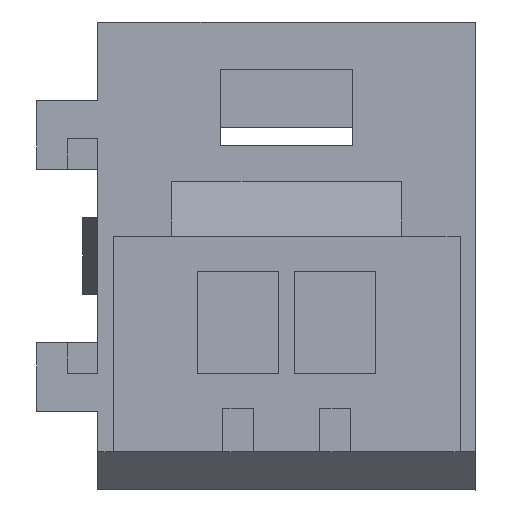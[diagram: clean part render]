
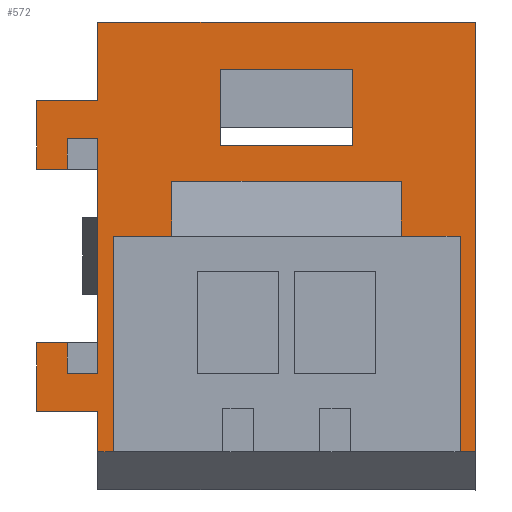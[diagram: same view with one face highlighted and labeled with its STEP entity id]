
A CAD part, front view. The second image highlights one B-rep face of the part: STEP entity #572.
In plain terms, the highlighted planar face has unit normal (0, -1, 0).
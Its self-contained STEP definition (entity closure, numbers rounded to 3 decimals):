
#376=AXIS2_PLACEMENT_3D('Plane Axis2P3D',#373,#374,#375) ;
#186=CARTESIAN_POINT('Vertex',(-7.4,-1.8,7.925)) ;
#189=CARTESIAN_POINT('Line Origine',(-7.4,-1.8,9.463)) ;
#193=CARTESIAN_POINT('Vertex',(-7.4,-1.8,11.)) ;
#221=CARTESIAN_POINT('Vertex',(-7.4,-1.8,-5.85)) ;
#224=CARTESIAN_POINT('Line Origine',(-7.4,-1.8,-5.062)) ;
#228=CARTESIAN_POINT('Vertex',(-7.4,-1.8,-4.275)) ;
#263=CARTESIAN_POINT('Vertex',(-7.4,-1.8,-2.775)) ;
#266=CARTESIAN_POINT('Line Origine',(-7.4,-1.8,1.825)) ;
#270=CARTESIAN_POINT('Vertex',(-7.4,-1.8,6.425)) ;
#358=CARTESIAN_POINT('Vertex',(-9.8,-1.8,7.925)) ;
#361=CARTESIAN_POINT('Line Origine',(-8.6,-1.8,7.925)) ;
#373=CARTESIAN_POINT('Axis2P3D Location',(-10.66,-1.8,-6.693)) ;
#378=CARTESIAN_POINT('Line Origine',(-9.2,-1.8,-1.575)) ;
#382=CARTESIAN_POINT('Vertex',(-8.6,-1.8,-1.575)) ;
#384=CARTESIAN_POINT('Vertex',(-9.8,-1.8,-1.575)) ;
#387=CARTESIAN_POINT('Line Origine',(-9.8,-1.8,-2.925)) ;
#391=CARTESIAN_POINT('Vertex',(-9.8,-1.8,-4.275)) ;
#394=CARTESIAN_POINT('Line Origine',(-8.6,-1.8,-4.275)) ;
#399=CARTESIAN_POINT('Line Origine',(-7.1,-1.8,-5.85)) ;
#403=CARTESIAN_POINT('Vertex',(-6.8,-1.8,-5.85)) ;
#406=CARTESIAN_POINT('Line Origine',(-6.8,-1.8,-1.625)) ;
#410=CARTESIAN_POINT('Vertex',(-6.8,-1.8,2.6)) ;
#413=CARTESIAN_POINT('Line Origine',(-5.65,-1.8,2.6)) ;
#417=CARTESIAN_POINT('Vertex',(-4.5,-1.8,2.6)) ;
#420=CARTESIAN_POINT('Line Origine',(-4.5,-1.8,3.675)) ;
#424=CARTESIAN_POINT('Vertex',(-4.5,-1.8,4.75)) ;
#427=CARTESIAN_POINT('Line Origine',(0.,-1.8,4.75)) ;
#431=CARTESIAN_POINT('Vertex',(4.5,-1.8,4.75)) ;
#434=CARTESIAN_POINT('Line Origine',(4.5,-1.8,3.675)) ;
#438=CARTESIAN_POINT('Vertex',(4.5,-1.8,2.6)) ;
#441=CARTESIAN_POINT('Line Origine',(5.65,-1.8,2.6)) ;
#445=CARTESIAN_POINT('Vertex',(6.8,-1.8,2.6)) ;
#448=CARTESIAN_POINT('Line Origine',(6.8,-1.8,-1.625)) ;
#452=CARTESIAN_POINT('Vertex',(6.8,-1.8,-5.85)) ;
#455=CARTESIAN_POINT('Line Origine',(7.1,-1.8,-5.85)) ;
#459=CARTESIAN_POINT('Vertex',(7.4,-1.8,-5.85)) ;
#462=CARTESIAN_POINT('Line Origine',(7.4,-1.8,2.575)) ;
#466=CARTESIAN_POINT('Vertex',(7.4,-1.8,11.)) ;
#469=CARTESIAN_POINT('Line Origine',(0.,-1.8,11.)) ;
#474=CARTESIAN_POINT('Line Origine',(-9.8,-1.8,6.575)) ;
#478=CARTESIAN_POINT('Vertex',(-9.8,-1.8,5.225)) ;
#481=CARTESIAN_POINT('Line Origine',(-9.2,-1.8,5.225)) ;
#485=CARTESIAN_POINT('Vertex',(-8.6,-1.8,5.225)) ;
#488=CARTESIAN_POINT('Line Origine',(-8.6,-1.8,5.825)) ;
#492=CARTESIAN_POINT('Vertex',(-8.6,-1.8,6.425)) ;
#495=CARTESIAN_POINT('Line Origine',(-8.,-1.8,6.425)) ;
#500=CARTESIAN_POINT('Line Origine',(-8.,-1.8,-2.775)) ;
#504=CARTESIAN_POINT('Vertex',(-8.6,-1.8,-2.775)) ;
#507=CARTESIAN_POINT('Line Origine',(-8.6,-1.8,-2.175)) ;
#538=CARTESIAN_POINT('Line Origine',(0.,-1.8,9.15)) ;
#542=CARTESIAN_POINT('Vertex',(-2.6,-1.8,9.15)) ;
#544=CARTESIAN_POINT('Vertex',(2.6,-1.8,9.15)) ;
#547=CARTESIAN_POINT('Line Origine',(2.6,-1.8,7.65)) ;
#551=CARTESIAN_POINT('Vertex',(2.6,-1.8,6.15)) ;
#554=CARTESIAN_POINT('Line Origine',(0.,-1.8,6.15)) ;
#558=CARTESIAN_POINT('Vertex',(-2.6,-1.8,6.15)) ;
#561=CARTESIAN_POINT('Line Origine',(-2.6,-1.8,7.65)) ;
#190=DIRECTION('Vector Direction',(0.,0.,-1.)) ;
#225=DIRECTION('Vector Direction',(0.,0.,-1.)) ;
#267=DIRECTION('Vector Direction',(0.,0.,-1.)) ;
#362=DIRECTION('Vector Direction',(-1.,0.,0.)) ;
#374=DIRECTION('Axis2P3D Direction',(0.,-1.,0.)) ;
#375=DIRECTION('Axis2P3D XDirection',(1.,0.,0.)) ;
#379=DIRECTION('Vector Direction',(-1.,0.,0.)) ;
#388=DIRECTION('Vector Direction',(0.,0.,-1.)) ;
#395=DIRECTION('Vector Direction',(1.,0.,0.)) ;
#400=DIRECTION('Vector Direction',(1.,0.,0.)) ;
#407=DIRECTION('Vector Direction',(0.,0.,1.)) ;
#414=DIRECTION('Vector Direction',(1.,0.,0.)) ;
#421=DIRECTION('Vector Direction',(0.,0.,1.)) ;
#428=DIRECTION('Vector Direction',(1.,0.,0.)) ;
#435=DIRECTION('Vector Direction',(0.,0.,-1.)) ;
#442=DIRECTION('Vector Direction',(1.,0.,0.)) ;
#449=DIRECTION('Vector Direction',(0.,0.,-1.)) ;
#456=DIRECTION('Vector Direction',(1.,0.,0.)) ;
#463=DIRECTION('Vector Direction',(0.,0.,1.)) ;
#470=DIRECTION('Vector Direction',(-1.,0.,0.)) ;
#475=DIRECTION('Vector Direction',(0.,0.,-1.)) ;
#482=DIRECTION('Vector Direction',(1.,0.,0.)) ;
#489=DIRECTION('Vector Direction',(0.,0.,1.)) ;
#496=DIRECTION('Vector Direction',(1.,0.,0.)) ;
#501=DIRECTION('Vector Direction',(-1.,0.,0.)) ;
#508=DIRECTION('Vector Direction',(0.,0.,1.)) ;
#539=DIRECTION('Vector Direction',(1.,0.,0.)) ;
#548=DIRECTION('Vector Direction',(0.,0.,-1.)) ;
#555=DIRECTION('Vector Direction',(-1.,0.,0.)) ;
#562=DIRECTION('Vector Direction',(0.,0.,1.)) ;
#191=VECTOR('Line Direction',#190,1.) ;
#226=VECTOR('Line Direction',#225,1.) ;
#268=VECTOR('Line Direction',#267,1.) ;
#363=VECTOR('Line Direction',#362,1.) ;
#380=VECTOR('Line Direction',#379,1.) ;
#389=VECTOR('Line Direction',#388,1.) ;
#396=VECTOR('Line Direction',#395,1.) ;
#401=VECTOR('Line Direction',#400,1.) ;
#408=VECTOR('Line Direction',#407,1.) ;
#415=VECTOR('Line Direction',#414,1.) ;
#422=VECTOR('Line Direction',#421,1.) ;
#429=VECTOR('Line Direction',#428,1.) ;
#436=VECTOR('Line Direction',#435,1.) ;
#443=VECTOR('Line Direction',#442,1.) ;
#450=VECTOR('Line Direction',#449,1.) ;
#457=VECTOR('Line Direction',#456,1.) ;
#464=VECTOR('Line Direction',#463,1.) ;
#471=VECTOR('Line Direction',#470,1.) ;
#476=VECTOR('Line Direction',#475,1.) ;
#483=VECTOR('Line Direction',#482,1.) ;
#490=VECTOR('Line Direction',#489,1.) ;
#497=VECTOR('Line Direction',#496,1.) ;
#502=VECTOR('Line Direction',#501,1.) ;
#509=VECTOR('Line Direction',#508,1.) ;
#540=VECTOR('Line Direction',#539,1.) ;
#549=VECTOR('Line Direction',#548,1.) ;
#556=VECTOR('Line Direction',#555,1.) ;
#563=VECTOR('Line Direction',#562,1.) ;
#513=ORIENTED_EDGE('',*,*,#386,.T.) ;
#514=ORIENTED_EDGE('',*,*,#393,.T.) ;
#515=ORIENTED_EDGE('',*,*,#398,.T.) ;
#516=ORIENTED_EDGE('',*,*,#230,.T.) ;
#517=ORIENTED_EDGE('',*,*,#405,.T.) ;
#518=ORIENTED_EDGE('',*,*,#412,.T.) ;
#519=ORIENTED_EDGE('',*,*,#419,.T.) ;
#520=ORIENTED_EDGE('',*,*,#426,.T.) ;
#521=ORIENTED_EDGE('',*,*,#433,.T.) ;
#522=ORIENTED_EDGE('',*,*,#440,.T.) ;
#523=ORIENTED_EDGE('',*,*,#447,.T.) ;
#524=ORIENTED_EDGE('',*,*,#454,.T.) ;
#525=ORIENTED_EDGE('',*,*,#461,.T.) ;
#526=ORIENTED_EDGE('',*,*,#468,.T.) ;
#527=ORIENTED_EDGE('',*,*,#473,.T.) ;
#528=ORIENTED_EDGE('',*,*,#195,.T.) ;
#529=ORIENTED_EDGE('',*,*,#365,.T.) ;
#530=ORIENTED_EDGE('',*,*,#480,.T.) ;
#531=ORIENTED_EDGE('',*,*,#487,.T.) ;
#532=ORIENTED_EDGE('',*,*,#494,.T.) ;
#533=ORIENTED_EDGE('',*,*,#499,.T.) ;
#534=ORIENTED_EDGE('',*,*,#272,.T.) ;
#535=ORIENTED_EDGE('',*,*,#506,.T.) ;
#536=ORIENTED_EDGE('',*,*,#511,.T.) ;
#567=ORIENTED_EDGE('',*,*,#546,.T.) ;
#568=ORIENTED_EDGE('',*,*,#553,.T.) ;
#569=ORIENTED_EDGE('',*,*,#560,.T.) ;
#570=ORIENTED_EDGE('',*,*,#565,.T.) ;
#571=FACE_BOUND('',#566,.T.) ;
#572=ADVANCED_FACE('MANIFOLD_SOLID_BREP #33',(#537,#571),#377,.T.) ;
#195=EDGE_CURVE('',#194,#187,#192,.T.) ;
#230=EDGE_CURVE('',#229,#222,#227,.T.) ;
#272=EDGE_CURVE('',#271,#264,#269,.T.) ;
#365=EDGE_CURVE('',#187,#359,#364,.T.) ;
#386=EDGE_CURVE('',#383,#385,#381,.T.) ;
#393=EDGE_CURVE('',#385,#392,#390,.T.) ;
#398=EDGE_CURVE('',#392,#229,#397,.T.) ;
#405=EDGE_CURVE('',#222,#404,#402,.T.) ;
#412=EDGE_CURVE('',#404,#411,#409,.T.) ;
#419=EDGE_CURVE('',#411,#418,#416,.T.) ;
#426=EDGE_CURVE('',#418,#425,#423,.T.) ;
#433=EDGE_CURVE('',#425,#432,#430,.T.) ;
#440=EDGE_CURVE('',#432,#439,#437,.T.) ;
#447=EDGE_CURVE('',#439,#446,#444,.T.) ;
#454=EDGE_CURVE('',#446,#453,#451,.T.) ;
#461=EDGE_CURVE('',#453,#460,#458,.T.) ;
#468=EDGE_CURVE('',#460,#467,#465,.T.) ;
#473=EDGE_CURVE('',#467,#194,#472,.T.) ;
#480=EDGE_CURVE('',#359,#479,#477,.T.) ;
#487=EDGE_CURVE('',#479,#486,#484,.T.) ;
#494=EDGE_CURVE('',#486,#493,#491,.T.) ;
#499=EDGE_CURVE('',#493,#271,#498,.T.) ;
#506=EDGE_CURVE('',#264,#505,#503,.T.) ;
#511=EDGE_CURVE('',#505,#383,#510,.T.) ;
#546=EDGE_CURVE('',#543,#545,#541,.T.) ;
#553=EDGE_CURVE('',#545,#552,#550,.T.) ;
#560=EDGE_CURVE('',#552,#559,#557,.T.) ;
#565=EDGE_CURVE('',#559,#543,#564,.T.) ;
#512=EDGE_LOOP('',(#513,#514,#515,#516,#517,#518,#519,#520,#521,#522,#523,#524,#525,#526,#527,#528,#529,#530,#531,#532,#533,#534,#535,#536)) ;
#566=EDGE_LOOP('',(#567,#568,#569,#570)) ;
#537=FACE_OUTER_BOUND('',#512,.T.) ;
#192=LINE('Line',#189,#191) ;
#227=LINE('Line',#224,#226) ;
#269=LINE('Line',#266,#268) ;
#364=LINE('Line',#361,#363) ;
#381=LINE('Line',#378,#380) ;
#390=LINE('Line',#387,#389) ;
#397=LINE('Line',#394,#396) ;
#402=LINE('Line',#399,#401) ;
#409=LINE('Line',#406,#408) ;
#416=LINE('Line',#413,#415) ;
#423=LINE('Line',#420,#422) ;
#430=LINE('Line',#427,#429) ;
#437=LINE('Line',#434,#436) ;
#444=LINE('Line',#441,#443) ;
#451=LINE('Line',#448,#450) ;
#458=LINE('Line',#455,#457) ;
#465=LINE('Line',#462,#464) ;
#472=LINE('Line',#469,#471) ;
#477=LINE('Line',#474,#476) ;
#484=LINE('Line',#481,#483) ;
#491=LINE('Line',#488,#490) ;
#498=LINE('Line',#495,#497) ;
#503=LINE('Line',#500,#502) ;
#510=LINE('Line',#507,#509) ;
#541=LINE('Line',#538,#540) ;
#550=LINE('Line',#547,#549) ;
#557=LINE('Line',#554,#556) ;
#564=LINE('Line',#561,#563) ;
#377=PLANE('',#376) ;
#187=VERTEX_POINT('',#186) ;
#194=VERTEX_POINT('',#193) ;
#222=VERTEX_POINT('',#221) ;
#229=VERTEX_POINT('',#228) ;
#264=VERTEX_POINT('',#263) ;
#271=VERTEX_POINT('',#270) ;
#359=VERTEX_POINT('',#358) ;
#383=VERTEX_POINT('',#382) ;
#385=VERTEX_POINT('',#384) ;
#392=VERTEX_POINT('',#391) ;
#404=VERTEX_POINT('',#403) ;
#411=VERTEX_POINT('',#410) ;
#418=VERTEX_POINT('',#417) ;
#425=VERTEX_POINT('',#424) ;
#432=VERTEX_POINT('',#431) ;
#439=VERTEX_POINT('',#438) ;
#446=VERTEX_POINT('',#445) ;
#453=VERTEX_POINT('',#452) ;
#460=VERTEX_POINT('',#459) ;
#467=VERTEX_POINT('',#466) ;
#479=VERTEX_POINT('',#478) ;
#486=VERTEX_POINT('',#485) ;
#493=VERTEX_POINT('',#492) ;
#505=VERTEX_POINT('',#504) ;
#543=VERTEX_POINT('',#542) ;
#545=VERTEX_POINT('',#544) ;
#552=VERTEX_POINT('',#551) ;
#559=VERTEX_POINT('',#558) ;
